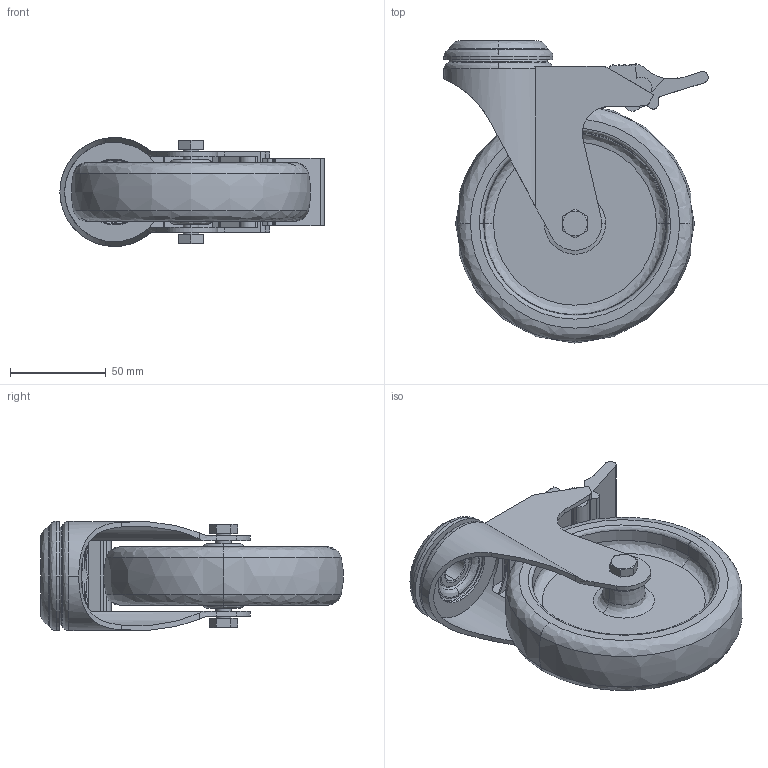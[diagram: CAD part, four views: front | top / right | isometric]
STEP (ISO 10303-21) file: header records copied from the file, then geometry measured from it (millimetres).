
FILE_DESCRIPTION (( 'STEP AP203' ), '1' );
FILE_NAME ('TCAG 125 BA Castor with multistop brake 125mm (01-06-2021).STEP', '2021-06-01T06:13:46', ( '' ), ( '' ), 'SwSTEP 2.0', 'SolidWorks 2020', '' );
FILE_SCHEMA (( 'CONFIG_CONTROL_DESIGN' ));
Length unit declared in the file: millimetre
Products named in the file (1): TCAG 125 BA Castor with multistop brake 125mm (01-06-2021)
Bounding box: 138.06 x 157.78 x 57 mm (x, y, z)
Volume: 277088.7 mm3; surface area: 79715.8 mm2
Topology: 1 solids, 1 shells, 243 faces, 640 edges, 412 vertices
Faces by surface type: plane 95, cylinder 54, cone 52, bspline 42
Entity records: 10207 total; most frequent: CARTESIAN_POINT 4322, ORIENTED_EDGE 1280, DIRECTION 1178, EDGE_CURVE 640, AXIS2_PLACEMENT_3D 456, VERTEX_POINT 412, VECTOR 266, LINE 266
